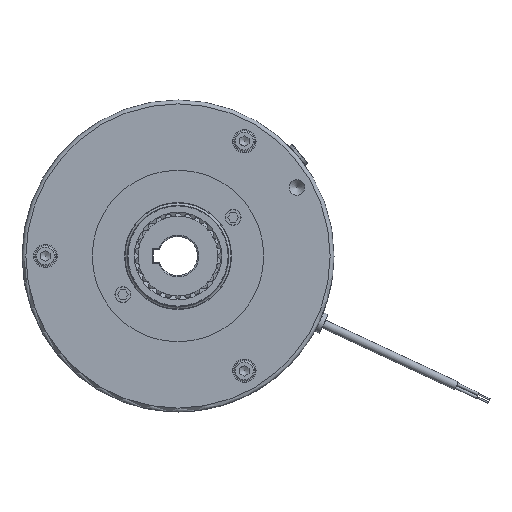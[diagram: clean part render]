
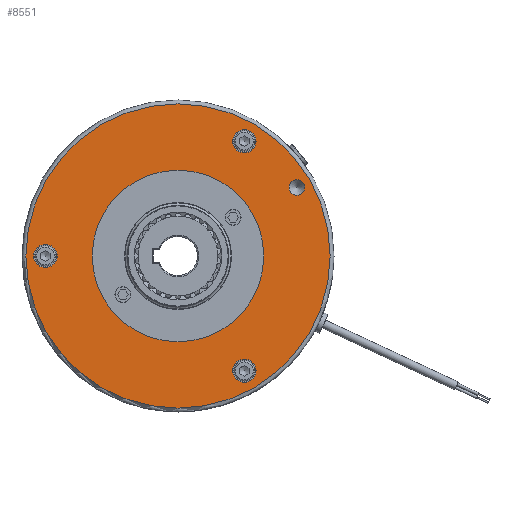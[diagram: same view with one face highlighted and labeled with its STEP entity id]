
A CAD part, left-side view. The second image highlights one B-rep face of the part: STEP entity #8551.
In plain terms, the highlighted planar face has unit normal (-1, 0, 0).
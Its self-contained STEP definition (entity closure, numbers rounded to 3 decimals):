
#384=FACE_BOUND('',#1278,.T.);
#385=FACE_BOUND('',#1279,.T.);
#386=FACE_BOUND('',#1280,.T.);
#387=FACE_BOUND('',#1281,.T.);
#388=FACE_BOUND('',#1282,.T.);
#474=PLANE('',#9359);
#776=FACE_OUTER_BOUND('',#1277,.T.);
#1277=EDGE_LOOP('',(#6431,#6432));
#1278=EDGE_LOOP('',(#6433,#6434));
#1279=EDGE_LOOP('',(#6435,#6436));
#1280=EDGE_LOOP('',(#6437,#6438));
#1281=EDGE_LOOP('',(#6439,#6440));
#1282=EDGE_LOOP('',(#6441,#6442));
#2572=CIRCLE('',#9343,5.);
#2573=CIRCLE('',#9344,5.);
#2580=CIRCLE('',#9355,97.5);
#2581=CIRCLE('',#9356,97.5);
#2583=CIRCLE('',#9360,55.);
#2584=CIRCLE('',#9361,55.);
#2585=CIRCLE('',#9362,7.5);
#2586=CIRCLE('',#9363,7.5);
#2587=CIRCLE('',#9364,7.5);
#2588=CIRCLE('',#9365,7.5);
#2589=CIRCLE('',#9366,7.5);
#2590=CIRCLE('',#9367,7.5);
#3382=VERTEX_POINT('',#14806);
#3383=VERTEX_POINT('',#14807);
#3388=VERTEX_POINT('',#14826);
#3389=VERTEX_POINT('',#14828);
#3390=VERTEX_POINT('',#14834);
#3391=VERTEX_POINT('',#14835);
#3392=VERTEX_POINT('',#14838);
#3393=VERTEX_POINT('',#14839);
#3394=VERTEX_POINT('',#14842);
#3395=VERTEX_POINT('',#14843);
#3396=VERTEX_POINT('',#14846);
#3397=VERTEX_POINT('',#14847);
#4460=EDGE_CURVE('',#3382,#3383,#2572,.T.);
#4461=EDGE_CURVE('',#3383,#3382,#2573,.T.);
#4471=EDGE_CURVE('',#3388,#3389,#2580,.T.);
#4472=EDGE_CURVE('',#3389,#3388,#2581,.T.);
#4474=EDGE_CURVE('',#3390,#3391,#2583,.T.);
#4475=EDGE_CURVE('',#3391,#3390,#2584,.T.);
#4476=EDGE_CURVE('',#3392,#3393,#2585,.T.);
#4477=EDGE_CURVE('',#3393,#3392,#2586,.T.);
#4478=EDGE_CURVE('',#3394,#3395,#2587,.T.);
#4479=EDGE_CURVE('',#3395,#3394,#2588,.T.);
#4480=EDGE_CURVE('',#3396,#3397,#2589,.T.);
#4481=EDGE_CURVE('',#3397,#3396,#2590,.T.);
#6431=ORIENTED_EDGE('',*,*,#4472,.F.);
#6432=ORIENTED_EDGE('',*,*,#4471,.F.);
#6433=ORIENTED_EDGE('',*,*,#4460,.T.);
#6434=ORIENTED_EDGE('',*,*,#4461,.T.);
#6435=ORIENTED_EDGE('',*,*,#4474,.T.);
#6436=ORIENTED_EDGE('',*,*,#4475,.T.);
#6437=ORIENTED_EDGE('',*,*,#4476,.T.);
#6438=ORIENTED_EDGE('',*,*,#4477,.T.);
#6439=ORIENTED_EDGE('',*,*,#4478,.T.);
#6440=ORIENTED_EDGE('',*,*,#4479,.T.);
#6441=ORIENTED_EDGE('',*,*,#4480,.T.);
#6442=ORIENTED_EDGE('',*,*,#4481,.T.);
#8551=ADVANCED_FACE('',(#776,#384,#385,#386,#387,#388),#474,.T.);
#9343=AXIS2_PLACEMENT_3D('',#14808,#11248,#11249);
#9344=AXIS2_PLACEMENT_3D('',#14809,#11250,#11251);
#9355=AXIS2_PLACEMENT_3D('',#14829,#11275,#11276);
#9356=AXIS2_PLACEMENT_3D('',#14830,#11277,#11278);
#9359=AXIS2_PLACEMENT_3D('',#14833,#11283,#11284);
#9360=AXIS2_PLACEMENT_3D('',#14836,#11285,#11286);
#9361=AXIS2_PLACEMENT_3D('',#14837,#11287,#11288);
#9362=AXIS2_PLACEMENT_3D('',#14840,#11289,#11290);
#9363=AXIS2_PLACEMENT_3D('',#14841,#11291,#11292);
#9364=AXIS2_PLACEMENT_3D('',#14844,#11293,#11294);
#9365=AXIS2_PLACEMENT_3D('',#14845,#11295,#11296);
#9366=AXIS2_PLACEMENT_3D('',#14848,#11297,#11298);
#9367=AXIS2_PLACEMENT_3D('',#14849,#11299,#11300);
#11248=DIRECTION('center_axis',(1.,0.,0.));
#11249=DIRECTION('ref_axis',(0.,0.,1.));
#11250=DIRECTION('center_axis',(1.,0.,0.));
#11251=DIRECTION('ref_axis',(0.,0.,1.));
#11275=DIRECTION('center_axis',(1.,0.,0.));
#11276=DIRECTION('ref_axis',(0.,-1.,0.));
#11277=DIRECTION('center_axis',(1.,0.,0.));
#11278=DIRECTION('ref_axis',(0.,-1.,0.));
#11283=DIRECTION('center_axis',(-1.,0.,0.));
#11284=DIRECTION('ref_axis',(0.,0.,1.));
#11285=DIRECTION('center_axis',(1.,0.,0.));
#11286=DIRECTION('ref_axis',(0.,1.,0.));
#11287=DIRECTION('center_axis',(1.,0.,0.));
#11288=DIRECTION('ref_axis',(0.,1.,0.));
#11289=DIRECTION('center_axis',(1.,0.,0.));
#11290=DIRECTION('ref_axis',(0.,0.,1.));
#11291=DIRECTION('center_axis',(1.,0.,0.));
#11292=DIRECTION('ref_axis',(0.,0.,1.));
#11293=DIRECTION('center_axis',(1.,0.,0.));
#11294=DIRECTION('ref_axis',(0.,-0.866,-0.5));
#11295=DIRECTION('center_axis',(1.,0.,0.));
#11296=DIRECTION('ref_axis',(0.,-0.866,-0.5));
#11297=DIRECTION('center_axis',(1.,0.,0.));
#11298=DIRECTION('ref_axis',(0.,0.866,-0.5));
#11299=DIRECTION('center_axis',(1.,0.,0.));
#11300=DIRECTION('ref_axis',(0.,0.866,-0.5));
#14806=CARTESIAN_POINT('',(-72.8,-76.21,49.));
#14807=CARTESIAN_POINT('',(-72.8,-76.21,39.));
#14808=CARTESIAN_POINT('Origin',(-72.8,-76.21,44.));
#14809=CARTESIAN_POINT('Origin',(-72.8,-76.21,44.));
#14826=CARTESIAN_POINT('',(-72.8,0.,97.5));
#14828=CARTESIAN_POINT('',(-72.8,97.5,0.));
#14829=CARTESIAN_POINT('Origin',(-72.8,0.,0.));
#14830=CARTESIAN_POINT('Origin',(-72.8,0.,0.));
#14833=CARTESIAN_POINT('Origin',(-72.8,77.5,0.));
#14834=CARTESIAN_POINT('',(-72.8,55.,0.));
#14835=CARTESIAN_POINT('',(-72.8,-55.,0.));
#14836=CARTESIAN_POINT('Origin',(-72.8,0.,0.));
#14837=CARTESIAN_POINT('Origin',(-72.8,0.,0.));
#14838=CARTESIAN_POINT('',(-72.8,85.,7.5));
#14839=CARTESIAN_POINT('',(-72.8,85.,-7.5));
#14840=CARTESIAN_POINT('Origin',(-72.8,85.,0.));
#14841=CARTESIAN_POINT('Origin',(-72.8,85.,0.));
#14842=CARTESIAN_POINT('',(-72.8,-48.995,69.862));
#14843=CARTESIAN_POINT('',(-72.8,-36.005,77.362));
#14844=CARTESIAN_POINT('Origin',(-72.8,-42.5,73.612));
#14845=CARTESIAN_POINT('Origin',(-72.8,-42.5,73.612));
#14846=CARTESIAN_POINT('',(-72.8,-36.005,-77.362));
#14847=CARTESIAN_POINT('',(-72.8,-48.995,-69.862));
#14848=CARTESIAN_POINT('Origin',(-72.8,-42.5,-73.612));
#14849=CARTESIAN_POINT('Origin',(-72.8,-42.5,-73.612));
